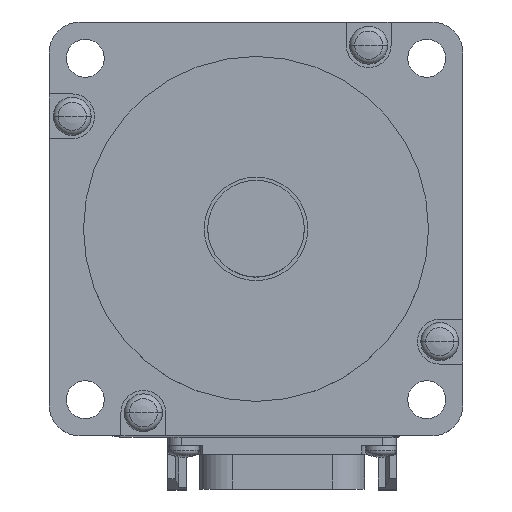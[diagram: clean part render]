
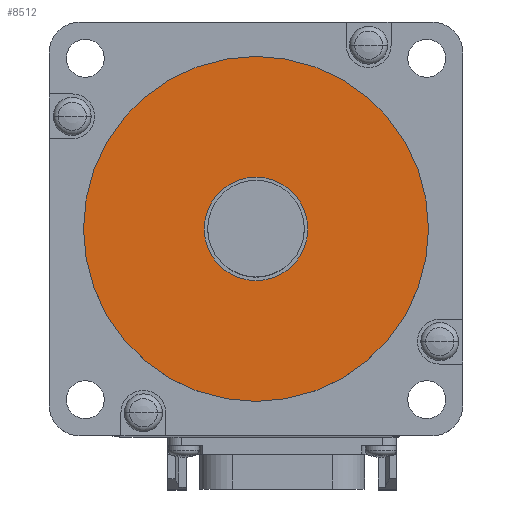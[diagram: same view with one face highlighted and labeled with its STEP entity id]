
A CAD part, top view. The second image highlights one B-rep face of the part: STEP entity #8512.
In plain terms, the highlighted planar face has unit normal (0, 0, 1).
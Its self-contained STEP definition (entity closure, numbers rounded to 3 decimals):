
#2071=CARTESIAN_POINT('',(0.,0.,3.));
#2072=DIRECTION('',(0.,0.,-1.));
#2073=DIRECTION('',(1.,0.,0.));
#2074=AXIS2_PLACEMENT_3D('',#2071,#2072,#2073);
#2076=CARTESIAN_POINT('',(0.,0.,3.));
#2077=DIRECTION('',(0.,0.,-1.));
#2078=DIRECTION('',(-1.,0.,0.));
#2079=AXIS2_PLACEMENT_3D('',#2076,#2077,#2078);
#2081=CARTESIAN_POINT('',(0.,0.,3.));
#2082=DIRECTION('',(0.,0.,1.));
#2083=DIRECTION('',(1.,0.,0.));
#2084=AXIS2_PLACEMENT_3D('',#2081,#2082,#2083);
#2086=CARTESIAN_POINT('',(0.,0.,3.));
#2087=DIRECTION('',(0.,0.,1.));
#2088=DIRECTION('',(-1.,0.,0.));
#2089=AXIS2_PLACEMENT_3D('',#2086,#2087,#2088);
#4638=CARTESIAN_POINT('',(25.,0.,3.));
#4639=VERTEX_POINT('',#4638);
#4640=CARTESIAN_POINT('',(-25.,0.,3.));
#4641=VERTEX_POINT('',#4640);
#5710=CARTESIAN_POINT('',(7.5,0.,3.));
#5711=CARTESIAN_POINT('',(-7.5,0.,3.));
#5712=VERTEX_POINT('',#5710);
#5713=VERTEX_POINT('',#5711);
#8496=CARTESIAN_POINT('',(0.,0.,3.));
#8497=DIRECTION('',(0.,0.,1.));
#8498=DIRECTION('',(1.,0.,0.));
#8499=AXIS2_PLACEMENT_3D('',#8496,#8497,#8498);
#8500=PLANE('',#8499);
#8501=ORIENTED_EDGE('',*,*,#8486,.T.);
#8503=ORIENTED_EDGE('',*,*,#8502,.T.);
#8504=EDGE_LOOP('',(#8501,#8503));
#8505=FACE_OUTER_BOUND('',#8504,.F.);
#8507=ORIENTED_EDGE('',*,*,#8506,.T.);
#8509=ORIENTED_EDGE('',*,*,#8508,.T.);
#8510=EDGE_LOOP('',(#8507,#8509));
#8511=FACE_BOUND('',#8510,.F.);
#8512=ADVANCED_FACE('',(#8505,#8511),#8500,.T.);
#2075=CIRCLE('',#2074,25.);
#2080=CIRCLE('',#2079,25.);
#2085=CIRCLE('',#2084,7.5);
#2090=CIRCLE('',#2089,7.5);
#8486=EDGE_CURVE('',#4639,#4641,#2075,.T.);
#8502=EDGE_CURVE('',#4641,#4639,#2080,.T.);
#8506=EDGE_CURVE('',#5712,#5713,#2085,.T.);
#8508=EDGE_CURVE('',#5713,#5712,#2090,.T.);
